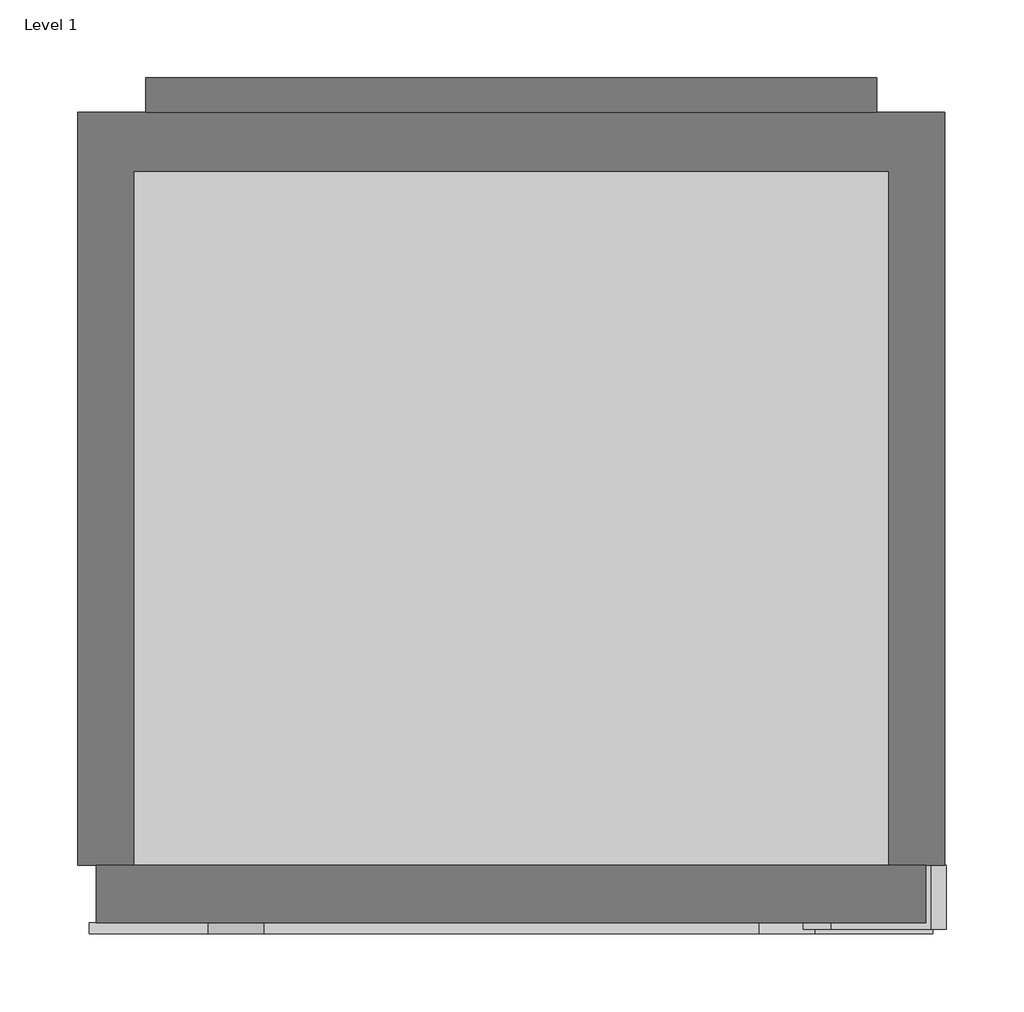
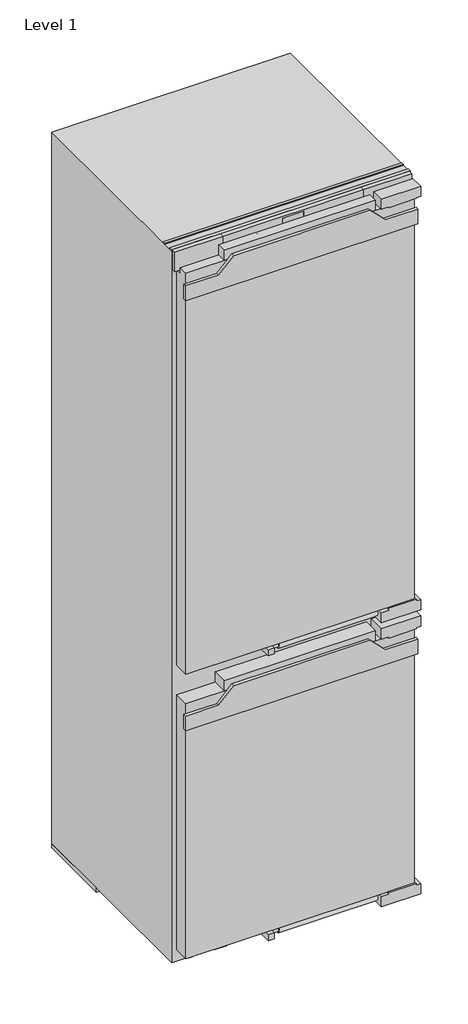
# One storey: 1 proxy.
"""IFC4 building model written with IfcOpenShell, lengths in millimetres."""

from ifc_helpers import new_model, si_unit, origin, place, context, project, spatial, transform, mapped, element, save
from components import specialty_equipment_5feef6a3

model = new_model("IFC4")

# Units and contexts
model_context = context("Model", 3, world=origin())
ifc_project = project(units=[si_unit("LENGTHUNIT", "METRE", prefix="MILLI")], contexts=[model_context])

# Site, building, storey
site = spatial("IfcSite", under=ifc_project)
building = spatial("IfcBuilding", under=site)
storey = spatial("IfcBuildingStorey", under=building, Name="Level 1", Elevation=0.0)

# Proxy
placement = place(None, origin())
specialty_equipment_shape = specialty_equipment_5feef6a3(model_context)
element("IfcBuildingElementProxy", 1, Name="11642670_EU1_KFN7774D : 38777400_EU1_11642670_KFN7774D", ObjectType="11642670_EU1_KFN7774D : 38777400_EU1_11642670_KFN7774D", at=placement, inside=storey, context=model_context, shape_type="MappedRepresentation", body=[
    mapped(specialty_equipment_shape, transform((0.0, 0.0, 0.0), x_axis=(1.0, 0.0, 0.0), y_axis=(0.0, 1.0, 0.0), z_axis=(0.0, 0.0, 1.0))),
])

save(model, "model.ifc")
